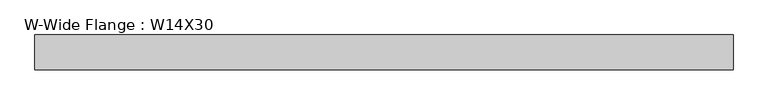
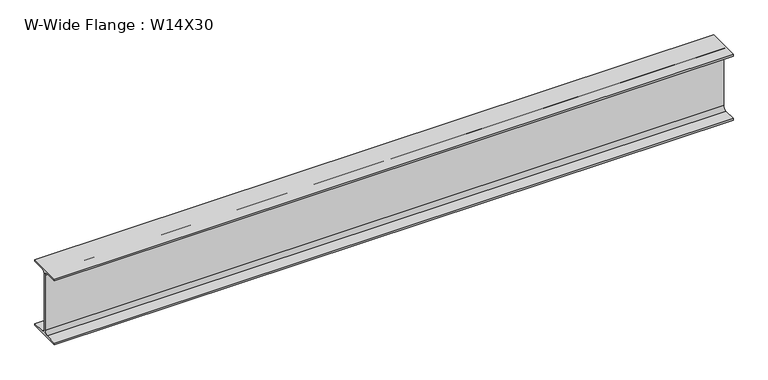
"""IFC4 building model written with IfcOpenShell, lengths in millimetres: beam geometry, W-Wide Flange : W14X30."""

import ifcopenshell
import ifcopenshell.guid

model = None  # the IFC model being written
_history = None  # IfcOwnerHistory: only IFC2X3 demands one
_inside = {}  # id of a spatial element -> (the spatial element, [elements in it])
_under = {}  # id of a project, library or spatial element -> (it, [spatial elements below it])
_declared = {}  # id of a project -> (the project, [libraries it declares])
_typed = {}  # id of a type object -> (the type object, [elements of that type])
_made_of = {}  # id of a material, layer set ... -> (it, [elements and type objects made of it])


def new_model(schema):
    """Start an empty IFC model of exactly this schema.

    Asked for "IFC4X3", IfcOpenShell would pick the latest addendum, in which some entities
    have other attributes; the version numbers below select the first issue.
    IFC2X3 requires an IfcOwnerHistory on every rooted entity: one is made here for all.
    """
    global model, _history
    if schema == "IFC4X3":
        model = ifcopenshell.file(schema_version=(4, 3, 0, 0))
    else:
        model = ifcopenshell.file(schema=schema)
    _inside.clear()
    _under.clear()
    _declared.clear()
    _typed.clear()
    _made_of.clear()
    _history = None
    if model.schema == "IFC2X3":
        org = make("IfcOrganization", Name="unknown")
        user = make(
            "IfcPersonAndOrganization",
            ThePerson=make("IfcPerson", FamilyName="unknown"),
            TheOrganization=org,
        )
        app = make(
            "IfcApplication",
            ApplicationDeveloper=org,
            Version="unknown",
            ApplicationFullName="unknown",
            ApplicationIdentifier="unknown",
        )
        _history = make(
            "IfcOwnerHistory",
            OwningUser=user,
            OwningApplication=app,
            ChangeAction="ADDED",
            CreationDate=0,
        )
    return model


def make(cls, **values):
    """One entity of the class cls with the attributes given. An attribute that is None is left unset."""
    return model.create_entity(
        cls, **{name: value for name, value in values.items() if value is not None}
    )


def rooted(cls, **values):
    """An entity with a GlobalId (a new one), such as an element, a storey or a relation."""
    return make(cls, GlobalId=ifcopenshell.guid.new(), OwnerHistory=_history, **values)


def si_unit(unit_type, name, prefix=None):
    """IfcSIUnit, for example si_unit("LENGTHUNIT", "METRE", prefix="MILLI")."""
    return make("IfcSIUnit", UnitType=unit_type, Prefix=prefix, Name=name)


def assignment(units):
    """IfcUnitAssignment: the units of a project."""
    return None if units is None else make("IfcUnitAssignment", Units=units)


def point(xyz):
    """IfcCartesianPoint."""
    return None if xyz is None else make("IfcCartesianPoint", Coordinates=xyz)


def direction(xyz):
    """IfcDirection."""
    return None if xyz is None else make("IfcDirection", DirectionRatios=xyz)


def frame(location, z_axis=None, x_axis=None):
    """IfcAxis2Placement3D, a coordinate frame: its origin and axes. An axis left out is left unset."""
    return make(
        "IfcAxis2Placement3D",
        Location=point(location),
        Axis=direction(z_axis),
        RefDirection=direction(x_axis),
    )


def frame_2d(location, x_axis=None):
    """IfcAxis2Placement2D, a coordinate frame in the plane: its origin and x axis."""
    return make(
        "IfcAxis2Placement2D", Location=point(location), RefDirection=direction(x_axis)
    )


def origin():
    """The frame at (0, 0, 0) with its axes left unset."""
    return frame((0.0, 0.0, 0.0))


def place(relative_to, where):
    """IfcLocalPlacement: puts the frame where relative to a parent placement (None: the world)."""
    return make(
        "IfcLocalPlacement", PlacementRelTo=relative_to, RelativePlacement=where
    )


def context(
    kind, dimensions, precision=None, world=None, true_north=None, identifier=None
):
    """IfcGeometricRepresentationContext, for example the 3D "Model" context."""
    return make(
        "IfcGeometricRepresentationContext",
        ContextIdentifier=identifier,
        ContextType=kind,
        CoordinateSpaceDimension=dimensions,
        Precision=precision,
        WorldCoordinateSystem=world,
        TrueNorth=true_north,
    )


def project(units=None, contexts=None):
    """IfcProject with its units and contexts."""
    return rooted(
        "IfcProject",
        Name="project",
        RepresentationContexts=contexts,
        UnitsInContext=assignment(units),
    )


def spatial(cls, under=None, at=None, **own):
    """A site, building, storey or space (cls), placed at a placement, below another one or the project."""
    s = rooted(cls, ObjectPlacement=at, **own)
    if under is not None:
        _under.setdefault(under.id(), (under, []))[1].append(s)
    return s


def polyline(points):
    """IfcPolyline through the points."""
    return make("IfcPolyline", Points=[point(p) for p in points])


def circle_curve(where, radius):
    """IfcCircle in the frame where."""
    return make("IfcCircle", Position=where, Radius=radius)


def trimmed(basis, trim1, trim2, sense, master):
    """IfcTrimmedCurve: the piece of a basis curve between two trims."""
    return make(
        "IfcTrimmedCurve",
        BasisCurve=basis,
        Trim1=trim1,
        Trim2=trim2,
        SenseAgreement=sense,
        MasterRepresentation=master,
    )


def segment(curve, same_sense, transition):
    """IfcCompositeCurveSegment."""
    return make(
        "IfcCompositeCurveSegment",
        Transition=transition,
        SameSense=same_sense,
        ParentCurve=curve,
    )


def composite_curve(segments, self_intersect=None):
    """IfcCompositeCurve: segments joined end to end."""
    return make("IfcCompositeCurve", Segments=segments, SelfIntersect=self_intersect)


def outline(outer, holes=None, kind="AREA"):
    """IfcArbitraryClosedProfileDef: a profile drawn as a closed curve; with holes, ...WithVoids."""
    if holes is None:
        return make("IfcArbitraryClosedProfileDef", ProfileType=kind, OuterCurve=outer)
    return make(
        "IfcArbitraryProfileDefWithVoids",
        ProfileType=kind,
        OuterCurve=outer,
        InnerCurves=holes,
    )


def extrude(swept, where, along, depth):
    """IfcExtrudedAreaSolid: the profile swept, set in the frame where, extruded along a direction by depth."""
    return make(
        "IfcExtrudedAreaSolid",
        SweptArea=swept,
        Position=where,
        ExtrudedDirection=direction(along),
        Depth=depth,
    )


def shape(context_of_items, identifier, shape_type, items):
    """IfcShapeRepresentation: the items that make up one representation, for example the "Body"."""
    return make(
        "IfcShapeRepresentation",
        ContextOfItems=context_of_items,
        RepresentationIdentifier=identifier,
        RepresentationType=shape_type,
        Items=items,
    )


def source(mapping_origin, context_of_items, identifier, shape_type, items):
    """IfcRepresentationMap: a shape defined once, which mapped items show again and again."""
    return make(
        "IfcRepresentationMap",
        MappingOrigin=mapping_origin,
        MappedRepresentation=shape(context_of_items, identifier, shape_type, items),
    )


def transform(
    local_origin,
    x_axis=None,
    y_axis=None,
    z_axis=None,
    scale=None,
    scale2=None,
    scale3=None,
    uniform=True,
):
    """IfcCartesianTransformationOperator3D, or its non-uniform kind. x_axis, y_axis, z_axis: its Axis1, 2, 3."""
    if uniform:
        return make(
            "IfcCartesianTransformationOperator3D",
            Axis1=direction(x_axis),
            Axis2=direction(y_axis),
            LocalOrigin=point(local_origin),
            Scale=scale,
            Axis3=direction(z_axis),
        )
    return make(
        "IfcCartesianTransformationOperator3DnonUniform",
        Axis1=direction(x_axis),
        Axis2=direction(y_axis),
        LocalOrigin=point(local_origin),
        Scale=scale,
        Axis3=direction(z_axis),
        Scale2=scale2,
        Scale3=scale3,
    )


def mapped(mapping_source, mapping_target):
    """IfcMappedItem: shows the shape of a source again, moved by a transform."""
    return make(
        "IfcMappedItem", MappingSource=mapping_source, MappingTarget=mapping_target
    )


def made_of(thing, what):
    """Note that an element or type object is made of a material, layer set ...; save() writes the relation."""
    if what is not None:
        _made_of.setdefault(what.id(), (what, []))[1].append(thing)
    return thing


def element(
    cls,
    number,
    at=None,
    inside=None,
    cuts=None,
    type_object=None,
    material=None,
    context=None,
    identifier="Body",
    shape_type=None,
    held_by="IfcProductDefinitionShape",
    body=None,
    shapes=None,
    **own,
):
    """One element of the class cls, such as IfcWall. Its Tag is "e" and its number.

    at: its placement. inside: the storey or other place that contains it. cuts: it is an
    opening in that element (IfcRelVoidsElement). A single representation is given by context,
    identifier, shape_type and body (its items); several are given by shapes. held_by: the class
    of the entity that holds the representations. save() writes the other relations.
    """
    e = rooted(cls, Tag="e%d" % number, ObjectPlacement=at, **own)
    if body is not None:
        shapes = [shape(context, identifier, shape_type, body)]
    if shapes is not None:
        e.Representation = make(held_by, Representations=shapes)
    if inside is not None:
        _inside.setdefault(inside.id(), (inside, []))[1].append(e)
    if cuts is not None:
        rooted(
            "IfcRelVoidsElement", RelatingBuildingElement=cuts, RelatedOpeningElement=e
        )
    if type_object is not None:
        _typed.setdefault(type_object.id(), (type_object, []))[1].append(e)
    return made_of(e, material)


def aggregate(whole, parts):
    """IfcRelAggregates: a whole, such as a stair, and the parts it consists of."""
    return rooted("IfcRelAggregates", RelatingObject=whole, RelatedObjects=parts)


def save(model, path):
    """Write the relations noted so far, then the file.

    IfcRelAggregates (storeys below a building ...), IfcRelContainedInSpatialStructure (elements
    in a storey), IfcRelDefinesByType, IfcRelAssociatesMaterial and IfcRelDeclares: one each for
    every whole, place, type object, material and project.
    """
    for whole, parts in _under.values():
        aggregate(whole, parts)
    for where, things in _inside.values():
        rooted(
            "IfcRelContainedInSpatialStructure",
            RelatedElements=things,
            RelatingStructure=where,
        )
    for kind, things in _typed.values():
        rooted("IfcRelDefinesByType", RelatedObjects=things, RelatingType=kind)
    for what, things in _made_of.values():
        rooted("IfcRelAssociatesMaterial", RelatedObjects=things, RelatingMaterial=what)
    for by, libraries in _declared.values():
        rooted("IfcRelDeclares", RelatingContext=by, RelatedDefinitions=libraries)
    model.write(path)


def w_wide_flange_w14x30_8274a343(model_context):
    return source(origin(), model_context, "Body", "SweptSolid", [
        extrude(outline(composite_curve([segment(polyline([(85.4769531, -165.9433594), (85.4769531, -175.7660156), (-85.4769531, -175.7660156), (-85.4769531, -165.9433594), (-22.1753906, -165.9433594)]), True, "CONTINUOUS"), segment(trimmed(circle_curve(frame_2d((-22.1753906, -147.1910156)), 18.7523438), [point((-22.1753906, -165.9433594))], [point((-3.4230469, -147.1910156))], True, "CARTESIAN"), True, "CONTINUOUS"), segment(polyline([(-3.4230469, -147.1910156), (-3.4230469, 147.1910156)]), True, "CONTINUOUS"), segment(trimmed(circle_curve(frame_2d((-22.1753906, 147.1910156)), 18.7523438), [point((-3.4230469, 147.1910156))], [point((-22.1753906, 165.9433594))], True, "CARTESIAN"), True, "CONTINUOUS"), segment(polyline([(-22.1753906, 165.9433594), (-85.4769531, 165.9433594), (-85.4769531, 175.7660156), (85.4769531, 175.7660156), (85.4769531, 165.9433594), (22.1753906, 165.9433594)]), True, "CONTINUOUS"), segment(trimmed(circle_curve(frame_2d((22.1753906, 147.1910156)), 18.7523438), [point((22.1753906, 165.9433594))], [point((3.4230469, 147.1910156))], True, "CARTESIAN"), True, "CONTINUOUS"), segment(polyline([(3.4230469, 147.1910156), (3.4230469, -147.1910156)]), True, "CONTINUOUS"), segment(trimmed(circle_curve(frame_2d((22.1753906, -147.1910156)), 18.7523438), [point((3.4230469, -147.1910156))], [point((22.1753906, -165.9433594))], True, "CARTESIAN"), True, "CONTINUOUS"), segment(polyline([(22.1753906, -165.9433594), (85.4769531, -165.9433594)]), True, "CONTINUOUS")], self_intersect=False)), frame((-1714.5496094, 0.0, 0.0), z_axis=(1.0, 0.0, 0.0), x_axis=(0.0, 1.0, 0.0)), (0.0, 0.0, 1.0), 3429.0992187),
    ])


if __name__ == "__main__":
    model = new_model("IFC4")
    model_context = context("Model", 3, world=origin())
    ifc_project = project(units=[si_unit("LENGTHUNIT", "METRE", prefix="MILLI")], contexts=[model_context])
    site = spatial("IfcSite", under=ifc_project)
    building = spatial("IfcBuilding", under=site)
    placement = place(None, origin())
    w_wide_flange_w14x30_shape = w_wide_flange_w14x30_8274a343(model_context)
    element("IfcBeam", 1, ObjectType="W-Wide Flange : W14X30", at=placement, inside=building, context=model_context, shape_type="MappedRepresentation", body=[
        mapped(w_wide_flange_w14x30_shape, transform((0.0, 0.0, 0.0), x_axis=(1.0, 0.0, 0.0), y_axis=(0.0, 1.0, 0.0), z_axis=(0.0, 0.0, 1.0))),
    ])
    save(model, "model.ifc")
